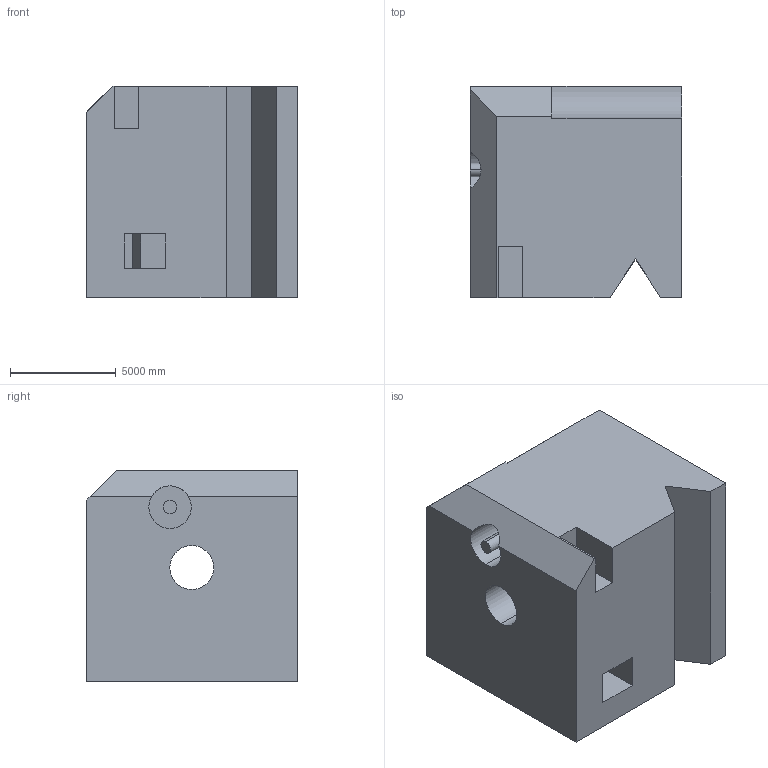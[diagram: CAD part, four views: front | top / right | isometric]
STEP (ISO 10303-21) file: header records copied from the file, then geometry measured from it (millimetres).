
FILE_DESCRIPTION (( 'STEP AP203' ), '1' );
FILE_NAME ('169.STEP', '2022-08-31T12:07:15', ( 'user' ), ( '' ), 'SwSTEP 2.0', 'SolidWorks 2021', '' );
FILE_SCHEMA (( 'CONFIG_CONTROL_DESIGN' ));
Length unit declared in the file: centimetre
Products named in the file (1): 169
Bounding box: 10000 x 10000 x 10000 mm (x, y, z)
Volume: 874865280030.4 mm3; surface area: 769574765.4 mm2
Topology: 1 solids, 1 shells, 37 faces, 102 edges, 68 vertices
Faces by surface type: plane 30, cylinder 7
Entity records: 1255 total; most frequent: CARTESIAN_POINT 214, ORIENTED_EDGE 204, DIRECTION 190, EDGE_CURVE 102, LINE 86, VECTOR 86, VERTEX_POINT 68, AXIS2_PLACEMENT_3D 52
